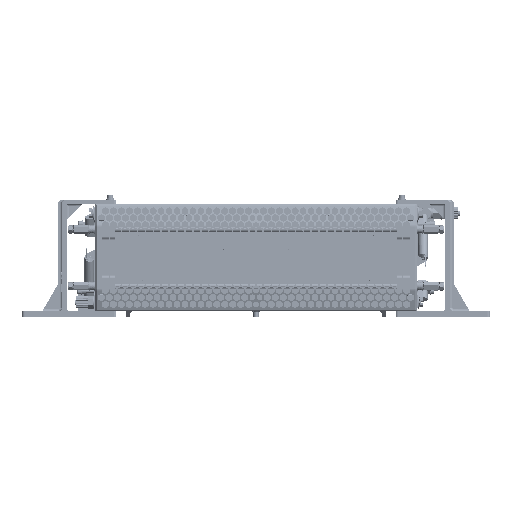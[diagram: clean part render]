
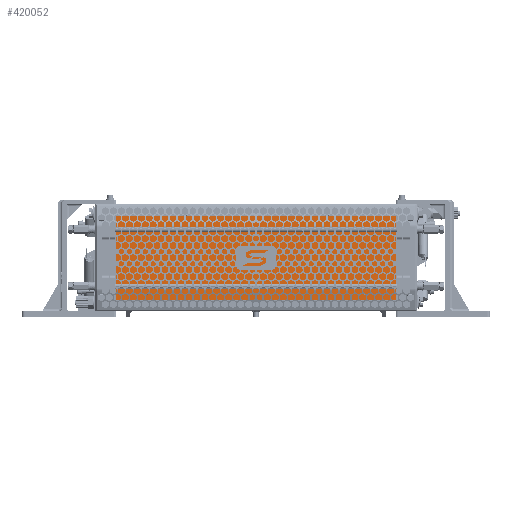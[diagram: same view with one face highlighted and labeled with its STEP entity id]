
A CAD part, top view. The second image highlights one B-rep face of the part: STEP entity #420052.
In plain terms, the highlighted planar face has unit normal (0, 0, 1) as drawn and (-1, 0, 0) by its records, which use the part's own axes.
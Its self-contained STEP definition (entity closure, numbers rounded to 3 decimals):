
#12665 = LINE ( 'NONE', #260113, #171821 ) ;
#24531 = ORIENTED_EDGE ( 'NONE', *, *, #444117, .T. ) ;
#29122 = ORIENTED_EDGE ( 'NONE', *, *, #122221, .T. ) ;
#39112 = FACE_OUTER_BOUND ( 'NONE', #90383, .T. ) ;
#55430 = CARTESIAN_POINT ( 'NONE',  ( -17., 37.5, 207.7 ) ) ;
#57060 = DIRECTION ( 'NONE',  ( 0., -1., 0. ) ) ;
#59976 = DIRECTION ( 'NONE',  ( 0., -1., 0. ) ) ;
#90145 = LINE ( 'NONE', #55430, #309307 ) ;
#90383 = EDGE_LOOP ( 'NONE', ( #24531, #286938, #395215, #29122 ) ) ;
#122221 = EDGE_CURVE ( 'NONE', #204598, #251786, #12665, .T. ) ;
#139923 = VECTOR ( 'NONE', #57060, 1000. ) ;
#171821 = VECTOR ( 'NONE', #290294, 1000. ) ;
#180173 = CARTESIAN_POINT ( 'NONE',  ( -17., 37.5, 207.7 ) ) ;
#204598 = VERTEX_POINT ( 'NONE', #389236 ) ;
#214606 = DIRECTION ( 'NONE',  ( 0., 0., -1. ) ) ;
#216841 = LINE ( 'NONE', #427310, #346915 ) ;
#224481 = EDGE_CURVE ( 'NONE', #387912, #419961, #216841, .T. ) ;
#231323 = CARTESIAN_POINT ( 'NONE',  ( -17., 37.5, 0. ) ) ;
#249354 = EDGE_CURVE ( 'NONE', #204598, #387912, #90145, .T. ) ;
#251786 = VERTEX_POINT ( 'NONE', #231323 ) ;
#251913 = CARTESIAN_POINT ( 'NONE',  ( -17., -37.5, 207.7 ) ) ;
#258323 = AXIS2_PLACEMENT_3D ( 'NONE', #180173, #425332, #455465 ) ;
#260113 = CARTESIAN_POINT ( 'NONE',  ( -17., 37.5, 207.7 ) ) ;
#284306 = PLANE ( 'NONE',  #258323 ) ;
#286938 = ORIENTED_EDGE ( 'NONE', *, *, #224481, .F. ) ;
#290294 = DIRECTION ( 'NONE',  ( 0., 0., -1. ) ) ;
#303007 = CARTESIAN_POINT ( 'NONE',  ( -17., -37.5, 0. ) ) ;
#309307 = VECTOR ( 'NONE', #59976, 1000. ) ;
#346915 = VECTOR ( 'NONE', #214606, 1000. ) ;
#378463 = CARTESIAN_POINT ( 'NONE',  ( -17., 37.5, 0. ) ) ;
#387912 = VERTEX_POINT ( 'NONE', #251913 ) ;
#389236 = CARTESIAN_POINT ( 'NONE',  ( -17., 37.5, 207.7 ) ) ;
#395215 = ORIENTED_EDGE ( 'NONE', *, *, #249354, .F. ) ;
#415439 = LINE ( 'NONE', #378463, #139923 ) ;
#419961 = VERTEX_POINT ( 'NONE', #303007 ) ;
#420052 = ADVANCED_FACE ( 'NONE', ( #39112 ), #284306, .F. ) ;
#425332 = DIRECTION ( 'NONE',  ( 1., 0., 0. ) ) ;
#427310 = CARTESIAN_POINT ( 'NONE',  ( -17., -37.5, 207.7 ) ) ;
#444117 = EDGE_CURVE ( 'NONE', #251786, #419961, #415439, .T. ) ;
#455465 = DIRECTION ( 'NONE',  ( 0., 0., -1. ) ) ;
